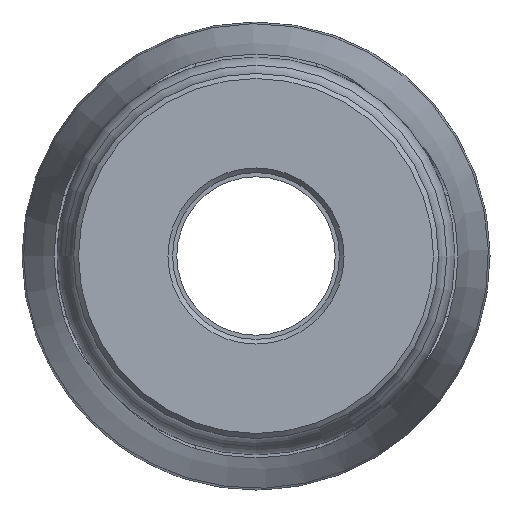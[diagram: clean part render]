
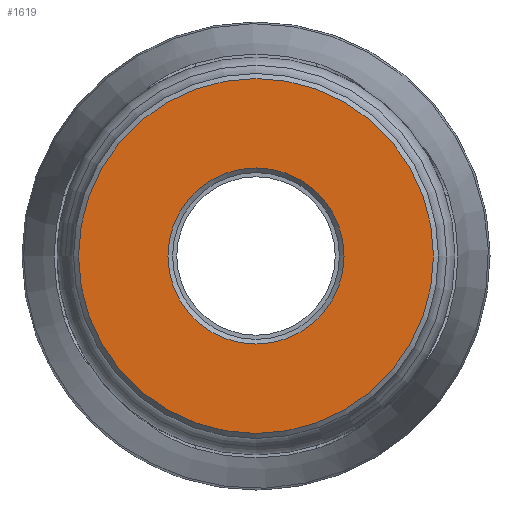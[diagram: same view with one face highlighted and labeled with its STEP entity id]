
A CAD part, left-side view. The second image highlights one B-rep face of the part: STEP entity #1619.
In plain terms, the highlighted planar face has unit normal (-1, 0, 0).
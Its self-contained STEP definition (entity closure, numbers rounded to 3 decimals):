
#29=FACE_BOUND('',#401,.T.);
#212=PLANE('',#1776);
#290=FACE_OUTER_BOUND('',#400,.T.);
#400=EDGE_LOOP('',(#1219));
#401=EDGE_LOOP('',(#1220));
#542=CIRCLE('',#1775,15.996);
#543=CIRCLE('',#1777,32.241);
#728=VERTEX_POINT('',#2878);
#729=VERTEX_POINT('',#2881);
#910=EDGE_CURVE('',#728,#728,#542,.T.);
#911=EDGE_CURVE('',#729,#729,#543,.T.);
#1219=ORIENTED_EDGE('',*,*,#911,.F.);
#1220=ORIENTED_EDGE('',*,*,#910,.F.);
#1619=ADVANCED_FACE('',(#290,#29),#212,.T.);
#1775=AXIS2_PLACEMENT_3D('',#2879,#2067,#2068);
#1776=AXIS2_PLACEMENT_3D('',#2880,#2069,#2070);
#1777=AXIS2_PLACEMENT_3D('',#2882,#2071,#2072);
#2067=DIRECTION('center_axis',(-1.,0.,0.));
#2068=DIRECTION('ref_axis',(0.,-1.,0.));
#2069=DIRECTION('center_axis',(-1.,0.,0.));
#2070=DIRECTION('ref_axis',(0.,0.,1.));
#2071=DIRECTION('center_axis',(1.,0.,0.));
#2072=DIRECTION('ref_axis',(0.,-1.,0.));
#2878=CARTESIAN_POINT('',(0.,15.996,0.));
#2879=CARTESIAN_POINT('Origin',(0.,0.,0.));
#2880=CARTESIAN_POINT('Origin',(0.,33.15,0.));
#2881=CARTESIAN_POINT('',(0.,32.241,0.));
#2882=CARTESIAN_POINT('Origin',(0.,0.,0.));
